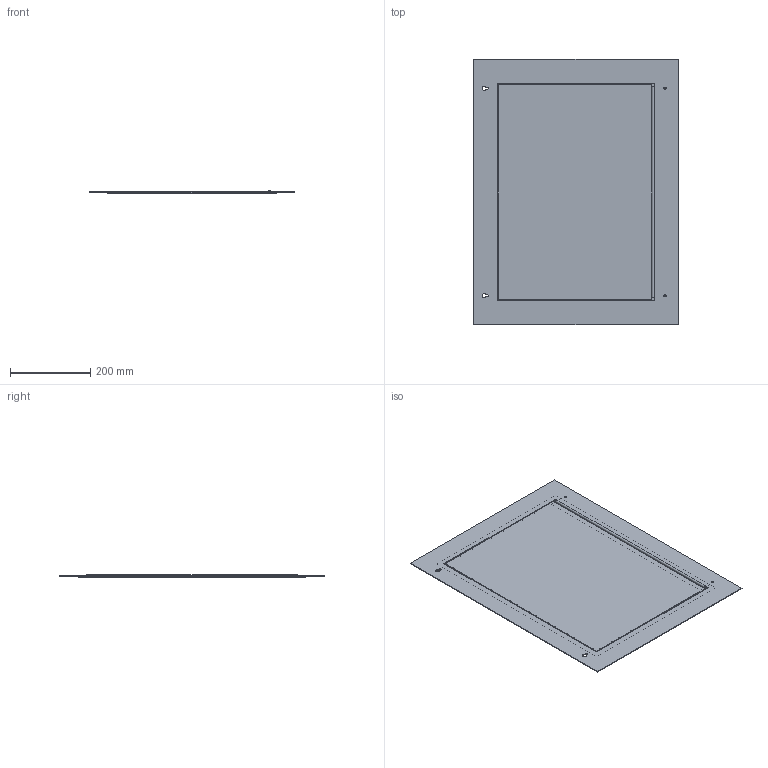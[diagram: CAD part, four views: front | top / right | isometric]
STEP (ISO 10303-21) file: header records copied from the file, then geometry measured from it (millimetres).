
FILE_DESCRIPTION((''),'1');
FILE_NAME('5','2001-04-17T',('jlue'),(''),'PRO/ENGINEER BY PARAMETRIC TECHNOLOGY CORPORATION, 9846','PRO/ENGINEER BY PARAMETRIC TECHNOLOGY CORPORATION, 9846','');
FILE_SCHEMA(('CONFIG_CONTROL_DESIGN'));
Length unit declared in the file: inch
Products named in the file (1): 5
Bounding box: 508 x 660.4 x 7.46 mm (x, y, z)
Surface area: 704453.3 mm2 (no closed solid volume)
Topology: 0 solids, 0 shells, 53 faces, 324 edges, 350 vertices
Faces by surface type: plane 40, cylinder 13
Entity records: 1631 total; most frequent: DIRECTION 312, COMPOSITE_CURVE_SEGMENT 298, CARTESIAN_POINT 228, TRIMMED_CURVE 175, VECTOR 144, LINE 144, AXIS2_PLACEMENT_3D 84, CURVE_BOUNDED_SURFACE 53
